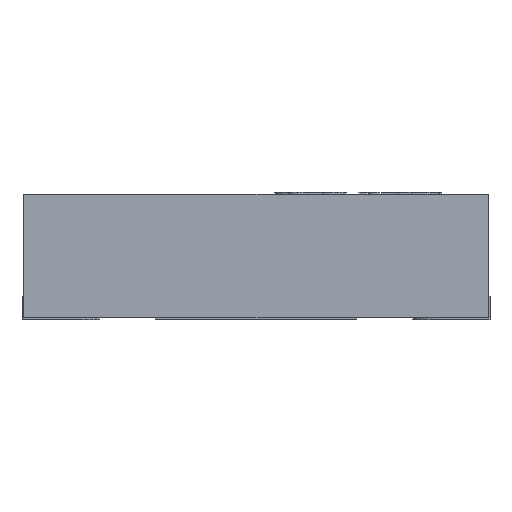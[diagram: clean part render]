
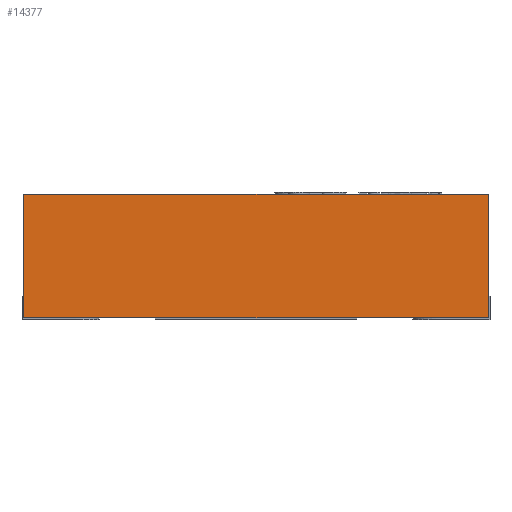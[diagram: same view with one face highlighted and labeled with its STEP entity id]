
A CAD part, front view. The second image highlights one B-rep face of the part: STEP entity #14377.
In plain terms, the highlighted planar face has unit normal (0, -1, 0).
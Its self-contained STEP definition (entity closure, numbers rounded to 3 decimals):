
#271 = CARTESIAN_POINT ( 'NONE',  ( -1.5, -1.5, 0.81 ) ) ;
#443 = FACE_OUTER_BOUND ( 'NONE', #14545, .T. ) ;
#539 = CARTESIAN_POINT ( 'NONE',  ( -1.5, -1.5, 0.81 ) ) ;
#1983 = VERTEX_POINT ( 'NONE', #10664 ) ;
#2553 = VERTEX_POINT ( 'NONE', #539 ) ;
#3109 = EDGE_CURVE ( 'NONE', #11050, #1983, #3504, .T. ) ;
#3504 = LINE ( 'NONE', #13719, #13162 ) ;
#4078 = ORIENTED_EDGE ( 'NONE', *, *, #7199, .F. ) ;
#6292 = EDGE_CURVE ( 'NONE', #2553, #11050, #10413, .T. ) ;
#6672 = PLANE ( 'NONE',  #10106 ) ;
#7199 = EDGE_CURVE ( 'NONE', #9380, #1983, #11419, .T. ) ;
#7369 = CARTESIAN_POINT ( 'NONE',  ( 1.5, -1.5, 0.81 ) ) ;
#7613 = DIRECTION ( 'NONE',  ( 1., 0., 0. ) ) ;
#8260 = VECTOR ( 'NONE', #14272, 1000. ) ;
#8947 = EDGE_CURVE ( 'NONE', #2553, #9380, #14188, .T. ) ;
#9380 = VERTEX_POINT ( 'NONE', #7369 ) ;
#9635 = CARTESIAN_POINT ( 'NONE',  ( -1.5, -1.5, 0.01 ) ) ;
#9711 = ORIENTED_EDGE ( 'NONE', *, *, #3109, .T. ) ;
#9973 = CARTESIAN_POINT ( 'NONE',  ( -1.5, -1.5, 0.81 ) ) ;
#10055 = DIRECTION ( 'NONE',  ( 0., 1., 0. ) ) ;
#10106 = AXIS2_PLACEMENT_3D ( 'NONE', #9973, #10055, #15370 ) ;
#10413 = LINE ( 'NONE', #271, #15668 ) ;
#10664 = CARTESIAN_POINT ( 'NONE',  ( 1.5, -1.5, 0.01 ) ) ;
#11050 = VERTEX_POINT ( 'NONE', #9635 ) ;
#11419 = LINE ( 'NONE', #12512, #15454 ) ;
#12512 = CARTESIAN_POINT ( 'NONE',  ( 1.5, -1.5, 0.81 ) ) ;
#12608 = ORIENTED_EDGE ( 'NONE', *, *, #6292, .T. ) ;
#13078 = CARTESIAN_POINT ( 'NONE',  ( -1.5, -1.5, 0.81 ) ) ;
#13162 = VECTOR ( 'NONE', #7613, 1000. ) ;
#13719 = CARTESIAN_POINT ( 'NONE',  ( -1.5, -1.5, 0.01 ) ) ;
#14093 = DIRECTION ( 'NONE',  ( 0., 0., -1. ) ) ;
#14188 = LINE ( 'NONE', #13078, #8260 ) ;
#14272 = DIRECTION ( 'NONE',  ( 1., 0., 0. ) ) ;
#14377 = ADVANCED_FACE ( 'NONE', ( #443 ), #6672, .F. ) ;
#14545 = EDGE_LOOP ( 'NONE', ( #9711, #4078, #14700, #12608 ) ) ;
#14700 = ORIENTED_EDGE ( 'NONE', *, *, #8947, .F. ) ;
#15206 = DIRECTION ( 'NONE',  ( 0., 0., -1. ) ) ;
#15370 = DIRECTION ( 'NONE',  ( 0., 0., 1. ) ) ;
#15454 = VECTOR ( 'NONE', #15206, 1000. ) ;
#15668 = VECTOR ( 'NONE', #14093, 1000. ) ;
